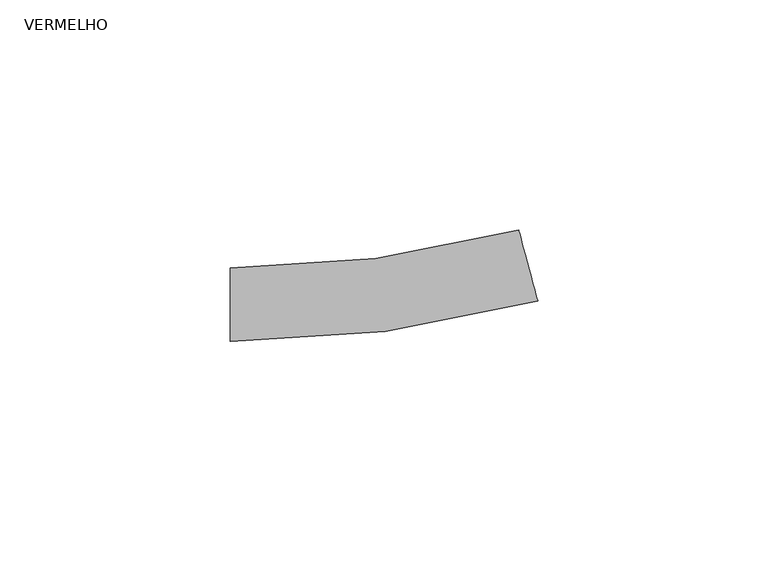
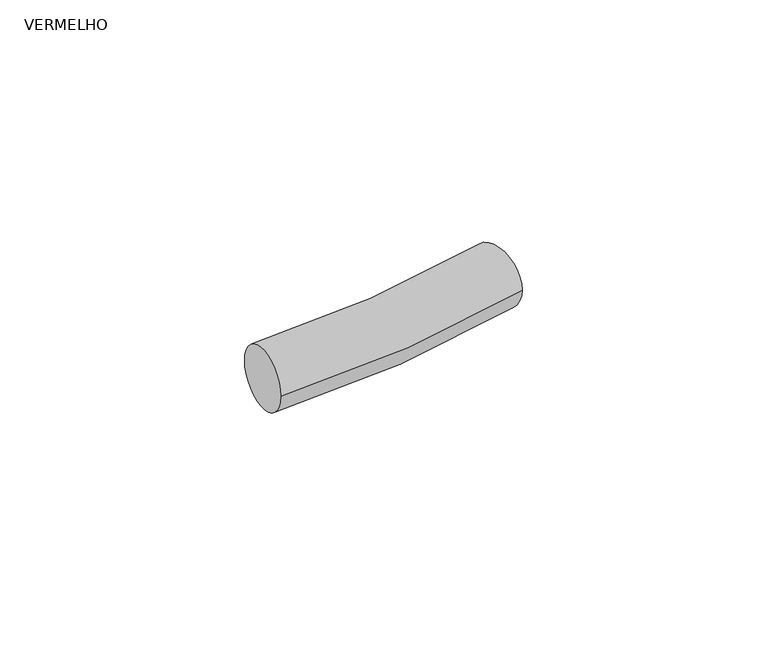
"""IFC4 building model written with IfcOpenShell, lengths in millimetres: pipe fitting geometry, AmancoWavin_ConexõesdeTubos_K5TuboFlexíveis : VERMELHO."""

from ifc_helpers import new_model, si_unit, point, frame, origin, place, context, project, spatial, circle_curve, ellipse_curve, trimmed, source, transform, mapped, element, save
from ifc_brep_helpers import plane_surface, revolved_surface, advanced_brep


def vermelho_d769db20(model_context):
    return source(origin(), model_context, "Body", "AdvancedBrep", [
        advanced_brep(
        [(-32.9131244, -8.0, 0.0), (-32.9131244, 8.0, 0.0), (33.8621892, 0.7911368, 0.0), (29.7210845, 16.24595, 0.0)],
        [
            (0, 1, circle_curve(frame((-32.9131244, 0.0, 0.0), z_axis=(-1.0, 0.0, 0.0), x_axis=(0.0, 1.0, 0.0)), 8.0)),
            (1, 0, circle_curve(frame((-32.9131244, 0.0, 0.0), z_axis=(-1.0, 0.0, 0.0), x_axis=(0.0, 1.0, 0.0)), 8.0)),
            (2, 3, circle_curve(frame((31.7916369, 8.5185434, 0.0), z_axis=(0.9659258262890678, 0.2588190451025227, 0.0), x_axis=(-0.2588190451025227, 0.9659258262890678, 0.0)), 8.0)),
            (3, 2, circle_curve(frame((31.7916369, 8.5185434, 0.0), z_axis=(0.9659258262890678, 0.2588190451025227, 0.0), x_axis=(-0.2588190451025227, 0.9659258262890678, 0.0)), 8.0)),
            (3, 1, circle_curve(frame((-32.9131244, 250.0, 0.0), z_axis=(0.0, 0.0, -1.0), x_axis=(0.0, -1.0, 0.0)), 242.0)),
            (0, 2, circle_curve(frame((-32.9131244, 250.0, 0.0), z_axis=(0.0, 0.0, 1.0), x_axis=(0.0, -1.0, 0.0)), 258.0)),
        ],
        [
            plane_surface(frame((-32.9131244, 0.0, 0.0), z_axis=(-1.0, 0.0, 0.0), x_axis=(0.0, 0.0, 1.0))),
            plane_surface(frame((31.7916369, 8.5185434, 0.0), z_axis=(0.9659258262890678, 0.2588190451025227, 0.0), x_axis=(0.0, 0.0, 1.0))),
            revolved_surface(trimmed(ellipse_curve(frame((-32.9131244, 0.0, 0.0), z_axis=(-1.0, 0.0, 0.0), x_axis=(0.0, 1.0, 0.0)), 8.0, 8.0), [point((-32.9131244, -8.0, 0.0))], [point((-32.9131244, 8.0, 0.0))], True, "CARTESIAN"), (-32.9131244, 250.0, 0.0), (0.0, 0.0, 1.0)),
            revolved_surface(trimmed(ellipse_curve(frame((-32.9131244, 0.0, 0.0), z_axis=(-1.0, 0.0, 0.0), x_axis=(0.0, 1.0, 0.0)), 8.0, 8.0), [point((-32.9131244, 8.0, 0.0))], [point((-32.9131244, -8.0, 0.0))], True, "CARTESIAN"), (-32.9131244, 250.0, 0.0), (0.0, 0.0, 1.0)),
        ],
        [
            (0, [[1, 2]]),
            (1, [[3, 4]]),
            (2, [[5, -1, 6, -4]]),
            (3, [[-6, -2, -5, -3]]),
        ],
    ),
    ])


if __name__ == "__main__":
    model = new_model("IFC4")
    model_context = context("Model", 3, world=origin())
    ifc_project = project(units=[si_unit("LENGTHUNIT", "METRE", prefix="MILLI")], contexts=[model_context])
    site = spatial("IfcSite", under=ifc_project)
    building = spatial("IfcBuilding", under=site)
    placement = place(None, origin())
    vermelho_shape = vermelho_d769db20(model_context)
    element("IfcPipeFitting", 1, ObjectType="AmancoWavin_ConexõesdeTubos_K5TuboFlexíveis : VERMELHO", at=placement, inside=building, context=model_context, shape_type="MappedRepresentation", body=[
        mapped(vermelho_shape, transform((0.0, 0.0, 0.0), x_axis=(1.0, 0.0, 0.0), y_axis=(0.0, 1.0, 0.0), z_axis=(0.0, 0.0, 1.0))),
    ])
    save(model, "model.ifc")
